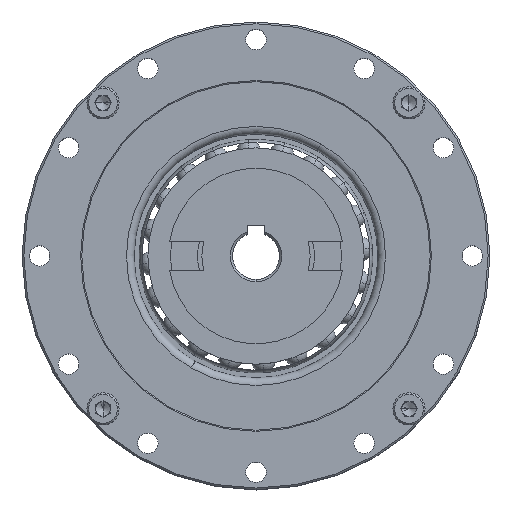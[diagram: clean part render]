
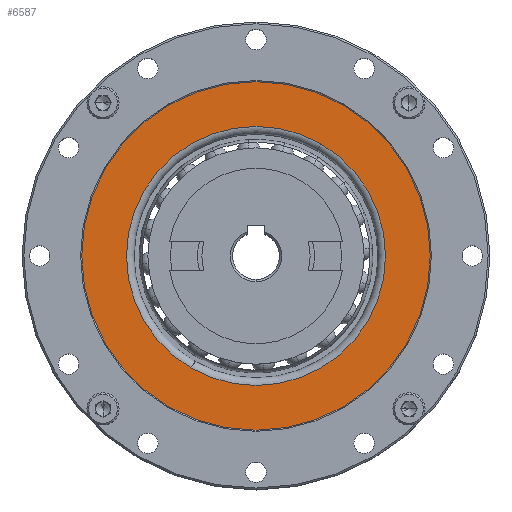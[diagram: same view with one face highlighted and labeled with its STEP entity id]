
A CAD part, top view. The second image highlights one B-rep face of the part: STEP entity #6587.
In plain terms, the highlighted planar face has unit normal (0, 0, 1).
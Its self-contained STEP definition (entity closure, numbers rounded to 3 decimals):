
#148 = EDGE_CURVE ( 'NONE', #703, #3959, #460, .T. ) ;
#314 = ORIENTED_EDGE ( 'NONE', *, *, #148, .T. ) ;
#358 = FACE_OUTER_BOUND ( 'NONE', #2559, .T. ) ;
#460 = CIRCLE ( 'NONE', #14979, 22.15 ) ;
#461 = EDGE_CURVE ( 'NONE', #3959, #703, #14554, .T. ) ;
#703 = VERTEX_POINT ( 'NONE', #9495 ) ;
#761 = EDGE_LOOP ( 'NONE', ( #314, #13811 ) ) ;
#1572 = AXIS2_PLACEMENT_3D ( 'NONE', #9789, #2299, #11054 ) ;
#1653 = CARTESIAN_POINT ( 'NONE',  ( 5.554, -0.514, 79.05 ) ) ;
#1970 = CARTESIAN_POINT ( 'NONE',  ( -5.521, -19.697, 79.05 ) ) ;
#2215 = CIRCLE ( 'NONE', #1572, 29.8 ) ;
#2299 = DIRECTION ( 'NONE',  ( 0., 0., 1. ) ) ;
#2559 = EDGE_LOOP ( 'NONE', ( #11164, #10417 ) ) ;
#2878 = DIRECTION ( 'NONE',  ( 0.5, 0.866, 0. ) ) ;
#3177 = FACE_BOUND ( 'NONE', #761, .T. ) ;
#3959 = VERTEX_POINT ( 'NONE', #1970 ) ;
#5011 = VERTEX_POINT ( 'NONE', #9860 ) ;
#5918 = PLANE ( 'NONE',  #12246 ) ;
#6167 = AXIS2_PLACEMENT_3D ( 'NONE', #13490, #13548, #13593 ) ;
#6587 = ADVANCED_FACE ( 'NONE', ( #358, #3177 ), #5918, .T. ) ;
#8001 = VERTEX_POINT ( 'NONE', #15082 ) ;
#9017 = DIRECTION ( 'NONE',  ( 0., 0., 1. ) ) ;
#9075 = CARTESIAN_POINT ( 'NONE',  ( 5.554, -0.514, 79.05 ) ) ;
#9288 = DIRECTION ( 'NONE',  ( 0.5, 0.866, 0. ) ) ;
#9495 = CARTESIAN_POINT ( 'NONE',  ( 16.629, 18.668, 79.05 ) ) ;
#9789 = CARTESIAN_POINT ( 'NONE',  ( 5.554, -0.514, 79.05 ) ) ;
#9860 = CARTESIAN_POINT ( 'NONE',  ( 20.454, 25.293, 79.05 ) ) ;
#10379 = DIRECTION ( 'NONE',  ( 0., 0., 1. ) ) ;
#10417 = ORIENTED_EDGE ( 'NONE', *, *, #10438, .T. ) ;
#10438 = EDGE_CURVE ( 'NONE', #8001, #5011, #2215, .T. ) ;
#10643 = EDGE_CURVE ( 'NONE', #5011, #8001, #15391, .T. ) ;
#11054 = DIRECTION ( 'NONE',  ( 0.5, 0.866, 0. ) ) ;
#11164 = ORIENTED_EDGE ( 'NONE', *, *, #10643, .T. ) ;
#12246 = AXIS2_PLACEMENT_3D ( 'NONE', #9075, #9017, #9288 ) ;
#12337 = DIRECTION ( 'NONE',  ( 0.5, 0.866, 0. ) ) ;
#12388 = DIRECTION ( 'NONE',  ( 0., 0., -1. ) ) ;
#13490 = CARTESIAN_POINT ( 'NONE',  ( 5.554, -0.514, 79.05 ) ) ;
#13548 = DIRECTION ( 'NONE',  ( 0., 0., -1. ) ) ;
#13593 = DIRECTION ( 'NONE',  ( 0.5, 0.866, 0. ) ) ;
#13811 = ORIENTED_EDGE ( 'NONE', *, *, #461, .T. ) ;
#14532 = CARTESIAN_POINT ( 'NONE',  ( 5.554, -0.514, 79.05 ) ) ;
#14554 = CIRCLE ( 'NONE', #6167, 22.15 ) ;
#14979 = AXIS2_PLACEMENT_3D ( 'NONE', #14532, #12388, #12337 ) ;
#15082 = CARTESIAN_POINT ( 'NONE',  ( -9.346, -26.322, 79.05 ) ) ;
#15391 = CIRCLE ( 'NONE', #15870, 29.8 ) ;
#15870 = AXIS2_PLACEMENT_3D ( 'NONE', #1653, #10379, #2878 ) ;
